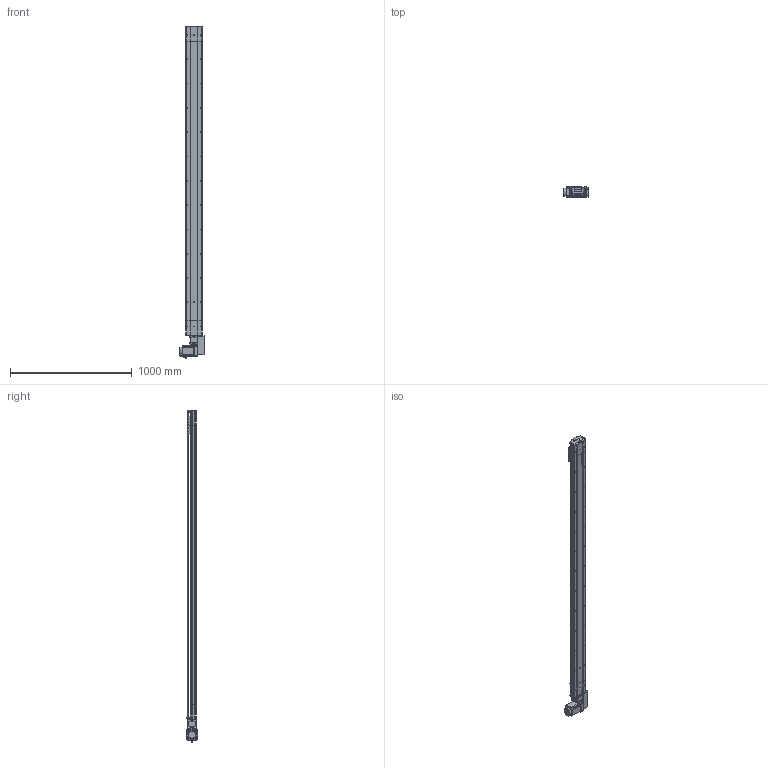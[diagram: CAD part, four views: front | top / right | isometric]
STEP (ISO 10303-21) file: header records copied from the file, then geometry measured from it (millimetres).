
FILE_DESCRIPTION (( 'STEP AP214' ), '1' );
FILE_NAME ('D14 TBH LH S2300.STEP', '2010-06-29T14:28:10', ( 'Conseil Régional Haute-Normandie' ), ( 'Conseil Régional Haute-Normandie' ), 'SwSTEP 2.0', 'SolidWorks 2010', '' );
FILE_SCHEMA (( 'AUTOMOTIVE_DESIGN' ));
Length unit declared in the file: millimetre
Products named in the file (39): vis M5 L8 90°_Default; Tail D14B_Default; renvoi LH_Default; corpl tail D14_Default; tete d''axe haut D14; couvercle D14_Default; plaque de  bout tail D14_Default; vis M5 L16_Default; Arbre+rail tail D14; Conecteur2_Default; codeur 90BLDC100-640; Cache_Default; poulie tail_Default; Conecteur_Default; Plaque racord D14_Default; D14 TB H LH_Default; Moteur motionking 90BLDC100A-640; poulie head_Default; corps 90BLDC100A-640; avant 90BLDC100A-640; couroie 2_Default; Couroie_Default; Arbre+rail head D14; plaque de  bout head D14 LH_Default; couvercle D14 head_Default; corp head D14_Default; Cache arbre_Default; Chariot D14; Vis M5 L16-2_Default; chariot D14B_Default; vis M5 L5_Default; Cvis M5 L70_Default; guide D14; vis M5 L12_Default; couvercle D14 course L2300_Default; corpl 2300_Default; D14 couroie L2300_Default; Rail + couroie D14 Course 2300 ; D14 TBH LH S2300
Assembly tree (68 placements, depth 4):
  D14 TBH LH S2300
    D14 couroie L2300_Default
      Rail + couroie D14 Course 2300 
      couvercle D14 course L2300_Default
      corpl 2300_Default
    Tail D14B_Default
      vis M5 L12_Default  x4
      poulie tail_Default
      vis M5 L8 90°_Default  x2
      plaque de  bout tail D14_Default
      tete d''axe haut D14
      Couroie_Default
      corpl tail D14_Default
      Arbre+rail tail D14
      couvercle D14_Default
      vis M5 L16_Default  x2
    chariot D14B_Default
      vis M5 L12_Default  x4
      guide D14  x2
      Chariot D14
    D14 TB H LH_Default
      Vis M5 L16-2_Default  x4
      Cvis M5 L70_Default  x4
      vis M5 L12_Default  x12
      corp head D14_Default
      vis M5 L5_Default  x2
      Cache_Default  x2
      Moteur motionking 90BLDC100A-640
        codeur 90BLDC100-640
        Conecteur_Default
        Conecteur2_Default
        corps 90BLDC100A-640
        avant 90BLDC100A-640
      Arbre+rail head D14
      Cache arbre_Default
      renvoi LH_Default
      couroie 2_Default
      poulie head_Default
      couvercle D14 head_Default
      plaque de  bout head D14 LH_Default
      Plaque racord D14_Default
Bounding box: 207.2 x 85.9 x 2732.45 mm (x, y, z)
Volume: 10036906.6 mm3; surface area: 3582477.7 mm2
Topology: 92 solids, 92 shells, 2709 faces, 6611 edges, 4266 vertices
Faces by surface type: plane 1609, cylinder 787, bspline 136, torus 89, cone 84, sphere 4
Entity records: 81512 total; most frequent: CARTESIAN_POINT 23925, ORIENTED_EDGE 10082, DIRECTION 9956, EDGE_CURVE 5041, LINE 3334, VECTOR 3334, VERTEX_POINT 3316, AXIS2_PLACEMENT_3D 3311
